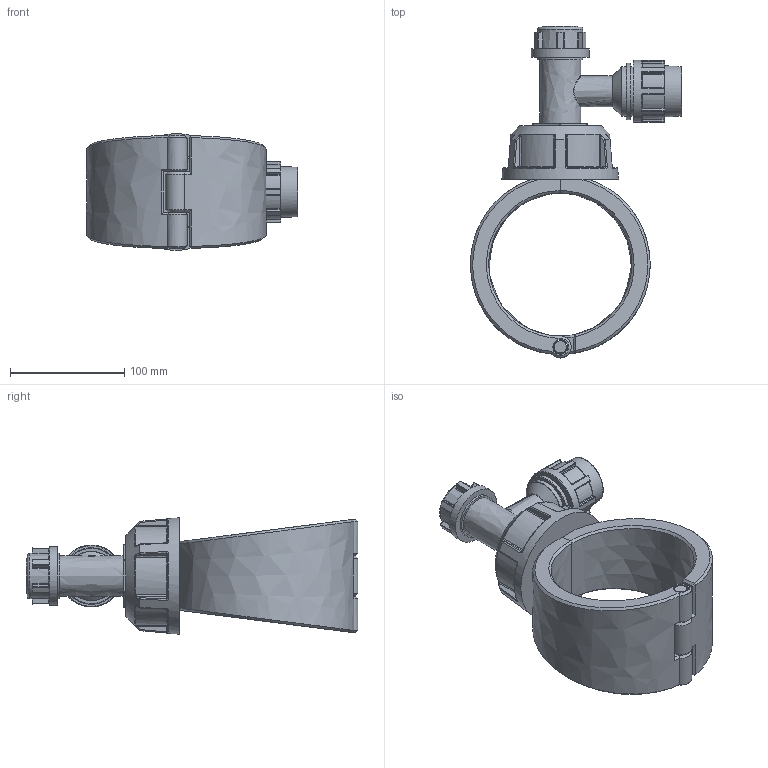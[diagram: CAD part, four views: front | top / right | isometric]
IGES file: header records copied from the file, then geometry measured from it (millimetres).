
Global section: file name: 163100160025_1631061600250A; native system: Autodesk Inventor 2019; preprocessor: unknown; author: comp2; date: 20220203.115819; units: millimetre
Bounding box: 184.5 x 290 x 101.87 mm (x, y, z)
Volume: 1058150.4 mm3; surface area: 152239.7 mm2
Topology: 4 solids, 4 shells, 519 faces, 1253 edges, 754 vertices
Faces by surface type: bspline 519
